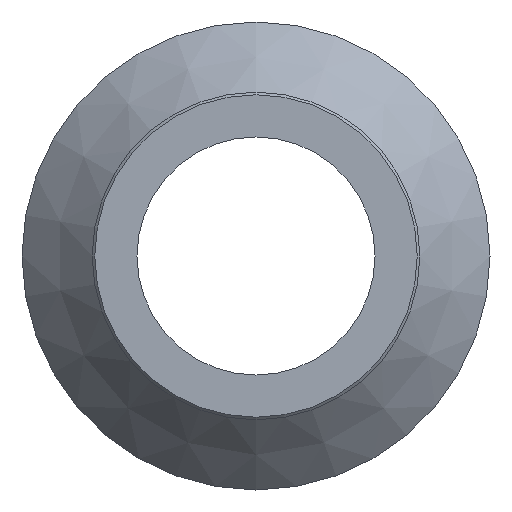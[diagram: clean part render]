
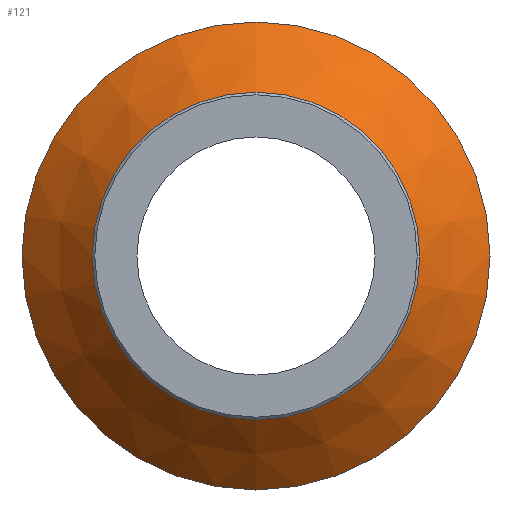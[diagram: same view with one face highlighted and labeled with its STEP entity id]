
A CAD part, left-side view. The second image highlights one B-rep face of the part: STEP entity #121.
In plain terms, the highlighted conical face has half-angle 43.958 degrees and reference radius 45 mm.
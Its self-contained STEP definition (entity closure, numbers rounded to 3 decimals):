
#22=CONICAL_SURFACE('',#146,45.,0.767);
#28=ORIENTED_EDGE('',*,*,#48,.F.);
#29=ORIENTED_EDGE('',*,*,#47,.T.);
#47=EDGE_CURVE('',#57,#57,#67,.T.);
#48=EDGE_CURVE('',#58,#58,#68,.T.);
#57=VERTEX_POINT('',#210);
#58=VERTEX_POINT('',#213);
#67=CIRCLE('',#145,45.);
#68=CIRCLE('',#147,31.5);
#78=EDGE_LOOP('',(#28));
#79=EDGE_LOOP('',(#29));
#98=FACE_BOUND('',#78,.T.);
#99=FACE_BOUND('',#79,.T.);
#121=ADVANCED_FACE('',(#98,#99),#22,.T.);
#145=AXIS2_PLACEMENT_3D('',#209,#169,#170);
#146=AXIS2_PLACEMENT_3D('',#211,#171,#172);
#147=AXIS2_PLACEMENT_3D('',#212,#173,#174);
#169=DIRECTION('',(-1.,0.,0.));
#170=DIRECTION('',(0.,0.,1.));
#171=DIRECTION('',(1.,0.,0.));
#172=DIRECTION('',(0.,0.,-1.));
#173=DIRECTION('',(-1.,0.,0.));
#174=DIRECTION('',(0.,0.,1.));
#209=CARTESIAN_POINT('',(7.,0.,0.));
#210=CARTESIAN_POINT('',(7.,0.,45.));
#211=CARTESIAN_POINT('',(7.,0.,0.));
#212=CARTESIAN_POINT('',(-7.,0.,0.));
#213=CARTESIAN_POINT('',(-7.,0.,31.5));
